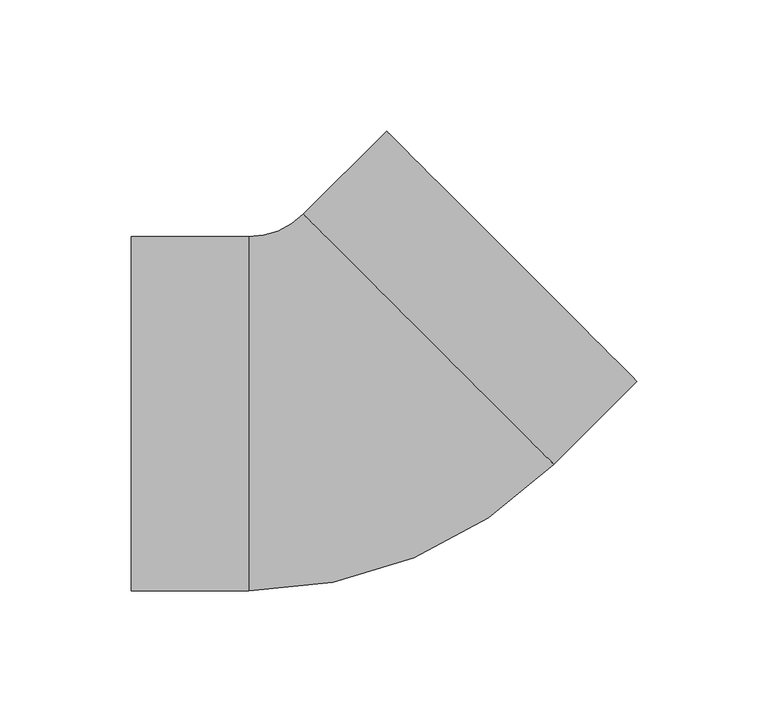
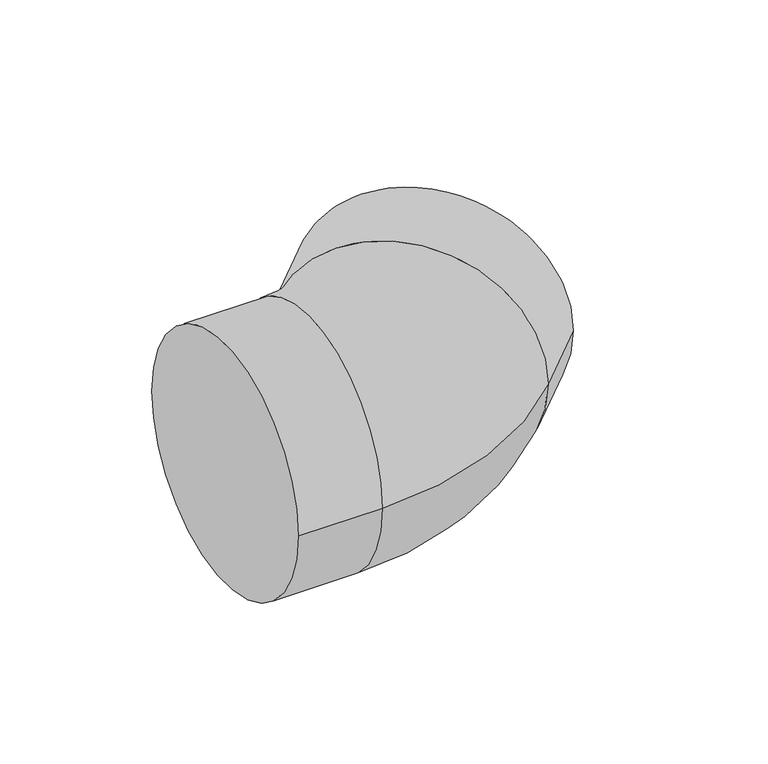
"""IFC4 building model written with IfcOpenShell, lengths in millimetres: pipe fitting geometry, PipeFitting_HTA_CPVC_Elbows : 110mm x 45°."""

from ifc_helpers import new_model, si_unit, point, frame, origin, place, context, project, spatial, circle_curve, ellipse_curve, trimmed, source, transform, mapped, element, save
from ifc_brep_helpers import plane_surface, cylinder_surface, revolved_surface, advanced_brep


def pipe_fitting_5286436a(model_context):
    return source(origin(), model_context, "Body", "AdvancedBrep", [
        advanced_brep(
        [(-85.0, -67.5, 0.0), (-85.0, 67.5, 0.0), (-40.1787156, -67.5, 0.0), (-40.1787156, 67.5, 0.0), (-19.3190655, 76.14035, 0.0), (76.14035, -19.3190655, 0.0), (107.8337841, 12.3743687, 0.0), (12.3743687, 107.8337841, 0.0)],
        [
            (0, 1, circle_curve(frame((-85.0, 0.0, 0.0), z_axis=(-1.0, 0.0, 0.0), x_axis=(0.0, 1.0, 0.0)), 67.5)),
            (1, 0, circle_curve(frame((-85.0, 0.0, 0.0), z_axis=(-1.0, 0.0, 0.0), x_axis=(0.0, 1.0, 0.0)), 67.5)),
            (0, 2),
            (2, 3, circle_curve(frame((-40.1787156, 0.0, 0.0), z_axis=(-1.0, 0.0, 0.0), x_axis=(0.0, 1.0, 0.0)), 67.5)),
            (3, 1),
            (3, 2, circle_curve(frame((-40.1787156, 0.0, 0.0), z_axis=(-1.0, 0.0, 0.0), x_axis=(0.0, 1.0, 0.0)), 67.5)),
            (4, 3, circle_curve(frame((-40.1787156, 97.0, 0.0), z_axis=(0.0, 0.0, -1.0), x_axis=(0.0, -1.0, 0.0)), 29.5)),
            (2, 5, circle_curve(frame((-40.1787156, 97.0, 0.0), z_axis=(0.0, 0.0, 1.0), x_axis=(0.0, -1.0, 0.0)), 164.5)),
            (5, 4, circle_curve(frame((28.4106422, 28.4106422, 0.0), z_axis=(-0.7071067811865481, -0.7071067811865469, 0.0), x_axis=(-0.7071067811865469, 0.7071067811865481, 0.0)), 67.5)),
            (4, 5, circle_curve(frame((28.4106422, 28.4106422, 0.0), z_axis=(-0.707106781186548, -0.707106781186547, 0.0), x_axis=(-0.707106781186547, 0.707106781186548, 0.0)), 67.5)),
            (6, 7, circle_curve(frame((60.1040764, 60.1040764, 0.0), z_axis=(0.7071067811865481, 0.7071067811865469, 0.0), x_axis=(-0.7071067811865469, 0.7071067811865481, 0.0)), 67.5)),
            (7, 6, circle_curve(frame((60.1040764, 60.1040764, 0.0), z_axis=(0.7071067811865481, 0.7071067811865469, 0.0), x_axis=(-0.7071067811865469, 0.7071067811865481, 0.0)), 67.5)),
            (5, 6),
            (7, 4),
        ],
        [
            plane_surface(frame((-85.0, 0.0, 0.0), z_axis=(-1.0, 0.0, 0.0), x_axis=(0.0, 0.0, 1.0))),
            cylinder_surface(frame((-85.0, 0.0, 0.0), z_axis=(-1.0, 0.0, 0.0), x_axis=(0.0, 1.0, 0.0)), 67.5),
            revolved_surface(trimmed(ellipse_curve(frame((-40.1787156, 0.0, 0.0), z_axis=(-1.0, 0.0, 0.0), x_axis=(0.0, 1.0, 0.0)), 67.5, 67.5), [point((-40.1787156, -67.5, 0.0))], [point((-40.1787156, 67.5, 0.0))], True, "CARTESIAN"), (-40.1787156, 97.0, 0.0), (0.0, 0.0, 1.0)),
            revolved_surface(trimmed(ellipse_curve(frame((-40.1787156, 0.0, 0.0), z_axis=(-1.0, 0.0, 0.0), x_axis=(0.0, 1.0, 0.0)), 67.5, 67.5), [point((-40.1787156, 67.5, 0.0))], [point((-40.1787156, -67.5, 0.0))], True, "CARTESIAN"), (-40.1787156, 97.0, 0.0), (0.0, 0.0, 1.0)),
            plane_surface(frame((60.1040764, 60.1040764, 0.0), z_axis=(0.7071067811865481, 0.7071067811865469, 0.0), x_axis=(0.0, 0.0, 1.0))),
            cylinder_surface(frame((28.4106422, 28.4106422, 0.0), z_axis=(-0.7071067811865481, -0.7071067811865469, 0.0), x_axis=(-0.7071067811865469, 0.7071067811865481, 0.0)), 67.5),
        ],
        [
            (0, [[1, 2]]),
            (1, [[-1, 3, 4, 5]]),
            (1, [[-2, -5, 6, -3]]),
            (2, [[7, -4, 8, 9]]),
            (3, [[-8, -6, -7, 10]]),
            (4, [[11, 12]]),
            (5, [[-9, 13, -12, 14]]),
            (5, [[-10, -14, -11, -13]]),
        ],
    ),
    ])


if __name__ == "__main__":
    model = new_model("IFC4")
    model_context = context("Model", 3, world=origin())
    ifc_project = project(units=[si_unit("LENGTHUNIT", "METRE", prefix="MILLI")], contexts=[model_context])
    site = spatial("IfcSite", under=ifc_project)
    building = spatial("IfcBuilding", under=site)
    placement = place(None, origin())
    pipe_fitting_shape = pipe_fitting_5286436a(model_context)
    element("IfcPipeFitting", 1, ObjectType="PipeFitting_HTA_CPVC_Elbows : 110mm x 45°", at=placement, inside=building, context=model_context, shape_type="MappedRepresentation", body=[
        mapped(pipe_fitting_shape, transform((0.0, 0.0, 0.0), x_axis=(1.0, 0.0, 0.0), y_axis=(0.0, 1.0, 0.0), z_axis=(0.0, 0.0, 1.0))),
    ])
    save(model, "model.ifc")
